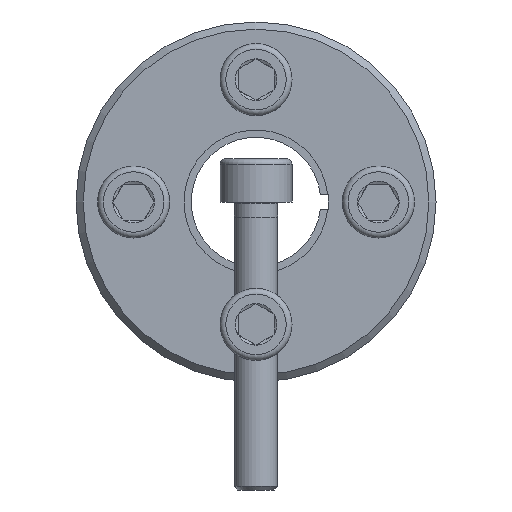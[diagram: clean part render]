
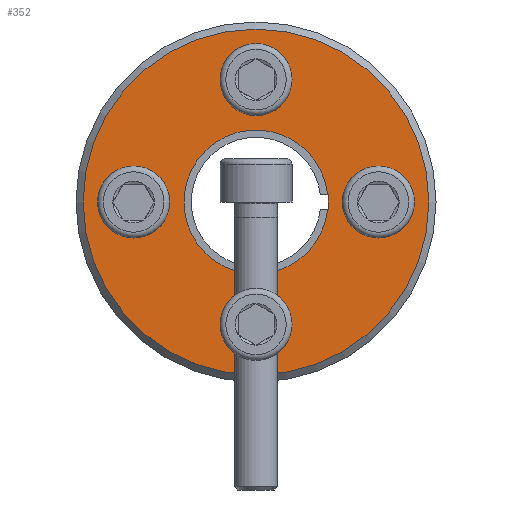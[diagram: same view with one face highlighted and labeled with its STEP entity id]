
A CAD part, front view. The second image highlights one B-rep face of the part: STEP entity #352.
In plain terms, the highlighted planar face has unit normal (0, -1, 0).
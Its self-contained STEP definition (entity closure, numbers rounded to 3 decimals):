
#352 = ADVANCED_FACE( '', ( #551, #552, #553, #554, #555, #556 ), #557, .F. );
#551 = FACE_OUTER_BOUND( '', #701, .T. );
#552 = FACE_BOUND( '', #702, .T. );
#553 = FACE_BOUND( '', #703, .T. );
#554 = FACE_BOUND( '', #704, .T. );
#555 = FACE_BOUND( '', #705, .T. );
#556 = FACE_BOUND( '', #706, .T. );
#557 = PLANE( '', #707 );
#701 = EDGE_LOOP( '', ( #874 ) );
#702 = EDGE_LOOP( '', ( #875 ) );
#703 = EDGE_LOOP( '', ( #876 ) );
#704 = EDGE_LOOP( '', ( #877 ) );
#705 = EDGE_LOOP( '', ( #878 ) );
#706 = EDGE_LOOP( '', ( #879, #880, #881, #882 ) );
#707 = AXIS2_PLACEMENT_3D( '', #883, #884, #885 );
#874 = ORIENTED_EDGE( '', *, *, #1219, .T. );
#875 = ORIENTED_EDGE( '', *, *, #1220, .T. );
#876 = ORIENTED_EDGE( '', *, *, #1221, .T. );
#877 = ORIENTED_EDGE( '', *, *, #1222, .T. );
#878 = ORIENTED_EDGE( '', *, *, #1223, .T. );
#879 = ORIENTED_EDGE( '', *, *, #1224, .F. );
#880 = ORIENTED_EDGE( '', *, *, #1225, .T. );
#881 = ORIENTED_EDGE( '', *, *, #1226, .T. );
#882 = ORIENTED_EDGE( '', *, *, #1227, .F. );
#883 = CARTESIAN_POINT( '', ( 0., 0., 25. ) );
#884 = DIRECTION( '', ( 0., 1., 0. ) );
#885 = DIRECTION( '', ( 0., 0., 1. ) );
#1219 = EDGE_CURVE( '', #1342, #1342, #1343, .F. );
#1220 = EDGE_CURVE( '', #1344, #1344, #1345, .T. );
#1221 = EDGE_CURVE( '', #1346, #1346, #1347, .T. );
#1222 = EDGE_CURVE( '', #1348, #1348, #1349, .T. );
#1223 = EDGE_CURVE( '', #1350, #1350, #1351, .T. );
#1224 = EDGE_CURVE( '', #1352, #1353, #1354, .T. );
#1225 = EDGE_CURVE( '', #1352, #1355, #1356, .T. );
#1226 = EDGE_CURVE( '', #1355, #1357, #1358, .T. );
#1227 = EDGE_CURVE( '', #1353, #1357, #1359, .T. );
#1342 = VERTEX_POINT( '', #1450 );
#1343 = CIRCLE( '', #1451, 24. );
#1344 = VERTEX_POINT( '', #1452 );
#1345 = CIRCLE( '', #1453, 3. );
#1346 = VERTEX_POINT( '', #1454 );
#1347 = CIRCLE( '', #1455, 3. );
#1348 = VERTEX_POINT( '', #1456 );
#1349 = CIRCLE( '', #1457, 3. );
#1350 = VERTEX_POINT( '', #1458 );
#1351 = CIRCLE( '', #1459, 3. );
#1352 = VERTEX_POINT( '', #1460 );
#1353 = VERTEX_POINT( '', #1461 );
#1354 = CIRCLE( '', #1462, 10. );
#1355 = VERTEX_POINT( '', #1463 );
#1356 = LINE( '', #1464, #1465 );
#1357 = VERTEX_POINT( '', #1466 );
#1358 = LINE( '', #1467, #1468 );
#1359 = LINE( '', #1469, #1470 );
#1450 = CARTESIAN_POINT( '', ( 0., 0., 24. ) );
#1451 = AXIS2_PLACEMENT_3D( '', #1606, #1607, #1608 );
#1452 = CARTESIAN_POINT( '', ( -17., 0., 3. ) );
#1453 = AXIS2_PLACEMENT_3D( '', #1609, #1610, #1611 );
#1454 = CARTESIAN_POINT( '', ( -3., 0., -17. ) );
#1455 = AXIS2_PLACEMENT_3D( '', #1612, #1613, #1614 );
#1456 = CARTESIAN_POINT( '', ( 17., 0., -3. ) );
#1457 = AXIS2_PLACEMENT_3D( '', #1615, #1616, #1617 );
#1458 = CARTESIAN_POINT( '', ( 3., 0., 17. ) );
#1459 = AXIS2_PLACEMENT_3D( '', #1618, #1619, #1620 );
#1460 = CARTESIAN_POINT( '', ( 9.95, 0., 1. ) );
#1461 = CARTESIAN_POINT( '', ( 9.95, 0., -1. ) );
#1462 = AXIS2_PLACEMENT_3D( '', #1621, #1622, #1623 );
#1463 = CARTESIAN_POINT( '', ( 10., 0., 1. ) );
#1464 = CARTESIAN_POINT( '', ( 0., 0., 1. ) );
#1465 = VECTOR( '', #1624, 1000. );
#1466 = CARTESIAN_POINT( '', ( 10., 0., -1. ) );
#1467 = CARTESIAN_POINT( '', ( 10., 0., 1. ) );
#1468 = VECTOR( '', #1625, 1000. );
#1469 = CARTESIAN_POINT( '', ( 0., 0., -1. ) );
#1470 = VECTOR( '', #1626, 1000. );
#1606 = CARTESIAN_POINT( '', ( 0., 0., 0. ) );
#1607 = DIRECTION( '', ( 0., 1., 0. ) );
#1608 = DIRECTION( '', ( 0., 0., 1. ) );
#1609 = CARTESIAN_POINT( '', ( -17., 0., 0. ) );
#1610 = DIRECTION( '', ( 0., 1., 0. ) );
#1611 = DIRECTION( '', ( 0., 0., 1. ) );
#1612 = CARTESIAN_POINT( '', ( 0., 0., -17. ) );
#1613 = DIRECTION( '', ( 0., 1., 0. ) );
#1614 = DIRECTION( '', ( -1., 0., 0. ) );
#1615 = CARTESIAN_POINT( '', ( 17., 0., 0. ) );
#1616 = DIRECTION( '', ( 0., 1., 0. ) );
#1617 = DIRECTION( '', ( 0., 0., -1. ) );
#1618 = CARTESIAN_POINT( '', ( 0., 0., 17. ) );
#1619 = DIRECTION( '', ( 0., 1., 0. ) );
#1620 = DIRECTION( '', ( 1., 0., 0. ) );
#1621 = CARTESIAN_POINT( '', ( 0., 0., 0. ) );
#1622 = DIRECTION( '', ( 0., -1., 0. ) );
#1623 = DIRECTION( '', ( 0., 0., -1. ) );
#1624 = DIRECTION( '', ( 1., 0., 0. ) );
#1625 = DIRECTION( '', ( 0., 0., -1. ) );
#1626 = DIRECTION( '', ( 1., 0., 0. ) );
